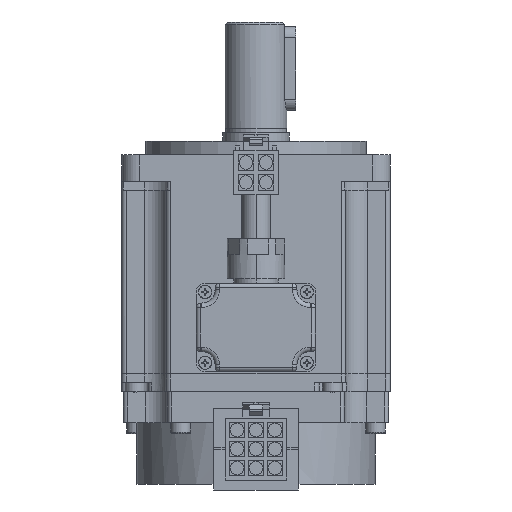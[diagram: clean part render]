
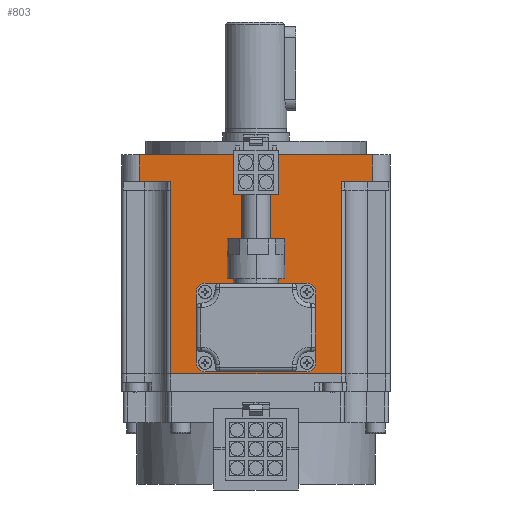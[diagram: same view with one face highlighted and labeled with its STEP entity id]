
A CAD part, front view. The second image highlights one B-rep face of the part: STEP entity #803.
In plain terms, the highlighted planar face has unit normal (0, -1, 0).
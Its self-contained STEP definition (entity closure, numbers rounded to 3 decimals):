
#13 = CARTESIAN_POINT ( 'NONE',  ( -26.35, -30.35, 6. ) ) ;
#104 = EDGE_CURVE ( 'NONE', #21243, #14452, #5112, .T. ) ;
#205 = CARTESIAN_POINT ( 'NONE',  ( 19.25, -30.35, 6. ) ) ;
#339 = CARTESIAN_POINT ( 'NONE',  ( -19.25, -30.35, 0. ) ) ;
#770 = EDGE_LOOP ( 'NONE', ( #15520, #3504, #17146, #3570, #6794, #2388, #3555, #12414 ) ) ;
#803 = ADVANCED_FACE ( 'NONE', ( #7699 ), #18922, .F. ) ;
#1080 = CARTESIAN_POINT ( 'NONE',  ( 30.35, -30.35, 6. ) ) ;
#1182 = VERTEX_POINT ( 'NONE', #5708 ) ;
#1331 = CARTESIAN_POINT ( 'NONE',  ( 30.35, -30.35, 0. ) ) ;
#1355 = VERTEX_POINT ( 'NONE', #21315 ) ;
#1736 = LINE ( 'NONE', #15012, #20139 ) ;
#2388 = ORIENTED_EDGE ( 'NONE', *, *, #104, .T. ) ;
#2471 = VECTOR ( 'NONE', #14899, 1000. ) ;
#3282 = LINE ( 'NONE', #205, #21620 ) ;
#3368 = DIRECTION ( 'NONE',  ( 0., 0., -1. ) ) ;
#3504 = ORIENTED_EDGE ( 'NONE', *, *, #16764, .T. ) ;
#3555 = ORIENTED_EDGE ( 'NONE', *, *, #11907, .F. ) ;
#3570 = ORIENTED_EDGE ( 'NONE', *, *, #15135, .T. ) ;
#3635 = EDGE_CURVE ( 'NONE', #15506, #21243, #14508, .T. ) ;
#4211 = VERTEX_POINT ( 'NONE', #9183 ) ;
#4506 = LINE ( 'NONE', #17687, #18019 ) ;
#4602 = DIRECTION ( 'NONE',  ( -1., 0., 0. ) ) ;
#4742 = LINE ( 'NONE', #13, #7777 ) ;
#5112 = LINE ( 'NONE', #5325, #10958 ) ;
#5325 = CARTESIAN_POINT ( 'NONE',  ( -19.25, -30.35, 6. ) ) ;
#5708 = CARTESIAN_POINT ( 'NONE',  ( 19.25, -30.35, -43.5 ) ) ;
#6267 = DIRECTION ( 'NONE',  ( 1., 0., 0. ) ) ;
#6492 = EDGE_CURVE ( 'NONE', #1182, #18115, #3282, .T. ) ;
#6662 = LINE ( 'NONE', #8207, #2471 ) ;
#6794 = ORIENTED_EDGE ( 'NONE', *, *, #3635, .T. ) ;
#7699 = FACE_OUTER_BOUND ( 'NONE', #770, .T. ) ;
#7774 = EDGE_CURVE ( 'NONE', #17561, #4211, #17884, .T. ) ;
#7777 = VECTOR ( 'NONE', #14823, 1000. ) ;
#8207 = CARTESIAN_POINT ( 'NONE',  ( 30.35, -30.35, 0. ) ) ;
#8328 = CARTESIAN_POINT ( 'NONE',  ( -26.35, -30.35, 0. ) ) ;
#8525 = CARTESIAN_POINT ( 'NONE',  ( -26.35, -30.35, 6. ) ) ;
#9183 = CARTESIAN_POINT ( 'NONE',  ( 26.35, -30.35, 6. ) ) ;
#9976 = DIRECTION ( 'NONE',  ( 0., 0., 1. ) ) ;
#10091 = VECTOR ( 'NONE', #12626, 1000. ) ;
#10781 = EDGE_CURVE ( 'NONE', #18115, #1355, #6662, .T. ) ;
#10804 = CARTESIAN_POINT ( 'NONE',  ( 30.35, -30.35, 6. ) ) ;
#10958 = VECTOR ( 'NONE', #3368, 1000. ) ;
#11907 = EDGE_CURVE ( 'NONE', #1182, #14452, #1736, .T. ) ;
#12055 = AXIS2_PLACEMENT_3D ( 'NONE', #10804, #14398, #16055 ) ;
#12414 = ORIENTED_EDGE ( 'NONE', *, *, #6492, .T. ) ;
#12626 = DIRECTION ( 'NONE',  ( 1., 0., 0. ) ) ;
#14179 = DIRECTION ( 'NONE',  ( 0., 0., 1. ) ) ;
#14388 = VECTOR ( 'NONE', #6267, 1000. ) ;
#14398 = DIRECTION ( 'NONE',  ( 0., 1., 0. ) ) ;
#14452 = VERTEX_POINT ( 'NONE', #16674 ) ;
#14508 = LINE ( 'NONE', #1331, #14388 ) ;
#14823 = DIRECTION ( 'NONE',  ( 0., 0., -1. ) ) ;
#14899 = DIRECTION ( 'NONE',  ( 1., 0., 0. ) ) ;
#15012 = CARTESIAN_POINT ( 'NONE',  ( -20.25, -30.35, -43.5 ) ) ;
#15135 = EDGE_CURVE ( 'NONE', #17561, #15506, #4742, .T. ) ;
#15506 = VERTEX_POINT ( 'NONE', #8328 ) ;
#15520 = ORIENTED_EDGE ( 'NONE', *, *, #10781, .T. ) ;
#16055 = DIRECTION ( 'NONE',  ( -1., 0., 0. ) ) ;
#16064 = CARTESIAN_POINT ( 'NONE',  ( 19.25, -30.35, 0. ) ) ;
#16674 = CARTESIAN_POINT ( 'NONE',  ( -19.25, -30.35, -43.5 ) ) ;
#16764 = EDGE_CURVE ( 'NONE', #1355, #4211, #4506, .T. ) ;
#17146 = ORIENTED_EDGE ( 'NONE', *, *, #7774, .F. ) ;
#17561 = VERTEX_POINT ( 'NONE', #8525 ) ;
#17687 = CARTESIAN_POINT ( 'NONE',  ( 26.35, -30.35, 6. ) ) ;
#17884 = LINE ( 'NONE', #1080, #10091 ) ;
#18019 = VECTOR ( 'NONE', #14179, 1000. ) ;
#18115 = VERTEX_POINT ( 'NONE', #16064 ) ;
#18922 = PLANE ( 'NONE',  #12055 ) ;
#20139 = VECTOR ( 'NONE', #4602, 1000. ) ;
#21243 = VERTEX_POINT ( 'NONE', #339 ) ;
#21315 = CARTESIAN_POINT ( 'NONE',  ( 26.35, -30.35, 0. ) ) ;
#21620 = VECTOR ( 'NONE', #9976, 1000. ) ;
